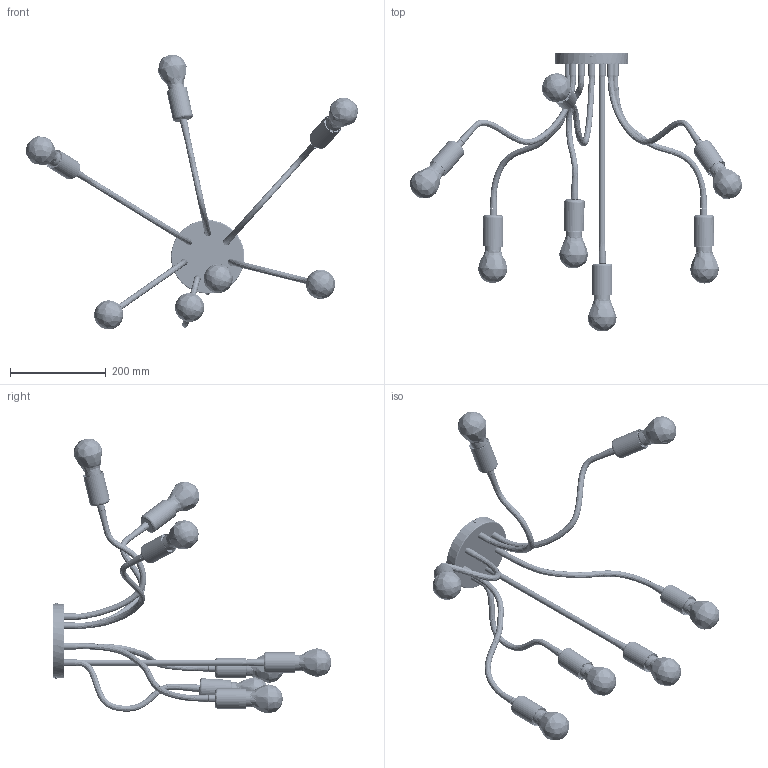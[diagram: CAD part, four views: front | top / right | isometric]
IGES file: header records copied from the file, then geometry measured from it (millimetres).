
Start section: SolidWorks IGES file using analytic representation for surfaces
Global section: file name: D:\Nowodworski\Modele 3D\Lampy\FLEX VII 9274\Flex_9274 .IGS; native system: SolidWorks 2017; preprocessor: SolidWorks 2017; author: DELL; date: 190702.130730; units: millimetre
Bounding box: 691.79 x 581.12 x 572.75 mm (x, y, z)
Surface area: 637219.4 mm2 (no closed solid volume)
Topology: 0 solids, 0 shells, 2273 faces, 29155 edges, 28973 vertices
Faces by surface type: revolution 1143, bspline 1130
